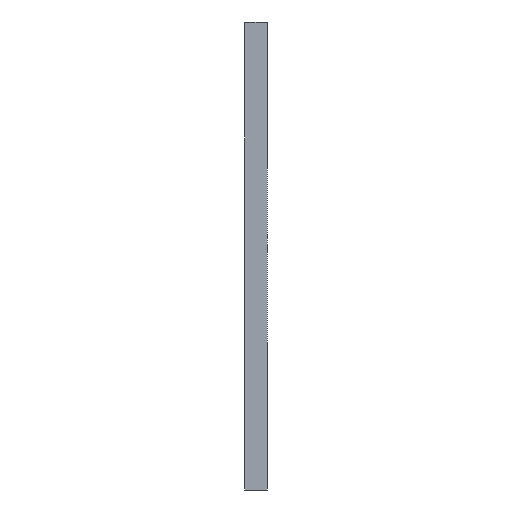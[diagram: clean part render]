
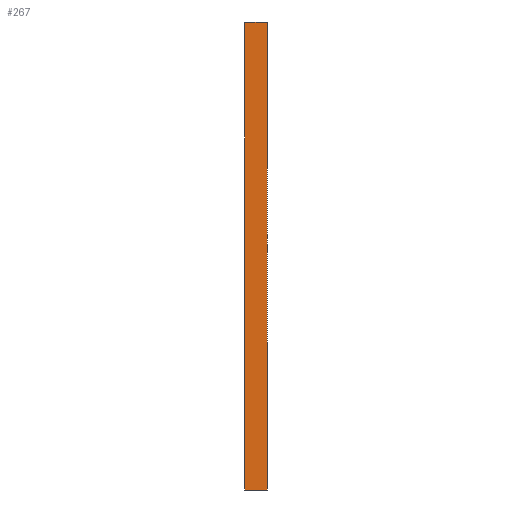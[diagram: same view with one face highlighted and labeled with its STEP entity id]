
A CAD part, left-side view. The second image highlights one B-rep face of the part: STEP entity #267.
In plain terms, the highlighted planar face has unit normal (-1, 0, 0).
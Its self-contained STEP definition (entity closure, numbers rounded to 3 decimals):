
#75 = EDGE_LOOP ( 'NONE', ( #362, #227, #181, #999 ) ) ;
#92 = LINE ( 'NONE', #962, #973 ) ;
#141 = CARTESIAN_POINT ( 'NONE',  ( -255.5, -20., -384. ) ) ;
#166 = CARTESIAN_POINT ( 'NONE',  ( -255.5, -20., 30. ) ) ;
#181 = ORIENTED_EDGE ( 'NONE', *, *, #982, .T. ) ;
#190 = DIRECTION ( 'NONE',  ( 0., 0., 1. ) ) ;
#222 = AXIS2_PLACEMENT_3D ( 'NONE', #815, #558, #895 ) ;
#227 = ORIENTED_EDGE ( 'NONE', *, *, #575, .F. ) ;
#250 = DIRECTION ( 'NONE',  ( 0., 0., 1. ) ) ;
#267 = ADVANCED_FACE ( 'NONE', ( #975 ), #440, .T. ) ;
#283 = VERTEX_POINT ( 'NONE', #332 ) ;
#332 = CARTESIAN_POINT ( 'NONE',  ( -255.5, -20., -384. ) ) ;
#356 = VERTEX_POINT ( 'NONE', #494 ) ;
#362 = ORIENTED_EDGE ( 'NONE', *, *, #1098, .F. ) ;
#382 = VECTOR ( 'NONE', #1101, 1000. ) ;
#414 = CARTESIAN_POINT ( 'NONE',  ( -255.5, 0., 30. ) ) ;
#440 = PLANE ( 'NONE',  #222 ) ;
#494 = CARTESIAN_POINT ( 'NONE',  ( -255.5, -20., 30. ) ) ;
#523 = LINE ( 'NONE', #166, #382 ) ;
#539 = VERTEX_POINT ( 'NONE', #414 ) ;
#556 = VECTOR ( 'NONE', #979, 1000. ) ;
#558 = DIRECTION ( 'NONE',  ( -1., 0., 0. ) ) ;
#575 = EDGE_CURVE ( 'NONE', #283, #837, #644, .T. ) ;
#586 = LINE ( 'NONE', #141, #1109 ) ;
#644 = LINE ( 'NONE', #727, #556 ) ;
#727 = CARTESIAN_POINT ( 'NONE',  ( -255.5, -20., -384. ) ) ;
#815 = CARTESIAN_POINT ( 'NONE',  ( -255.5, -20., -384. ) ) ;
#837 = VERTEX_POINT ( 'NONE', #880 ) ;
#880 = CARTESIAN_POINT ( 'NONE',  ( -255.5, 0., -384. ) ) ;
#895 = DIRECTION ( 'NONE',  ( 0., 0., 1. ) ) ;
#962 = CARTESIAN_POINT ( 'NONE',  ( -255.5, 0., -384. ) ) ;
#973 = VECTOR ( 'NONE', #190, 1000. ) ;
#974 = EDGE_CURVE ( 'NONE', #356, #539, #523, .T. ) ;
#975 = FACE_OUTER_BOUND ( 'NONE', #75, .T. ) ;
#979 = DIRECTION ( 'NONE',  ( 0., 1., 0. ) ) ;
#982 = EDGE_CURVE ( 'NONE', #283, #356, #586, .T. ) ;
#999 = ORIENTED_EDGE ( 'NONE', *, *, #974, .T. ) ;
#1098 = EDGE_CURVE ( 'NONE', #837, #539, #92, .T. ) ;
#1101 = DIRECTION ( 'NONE',  ( 0., 1., 0. ) ) ;
#1109 = VECTOR ( 'NONE', #250, 1000. ) ;
